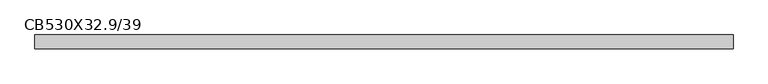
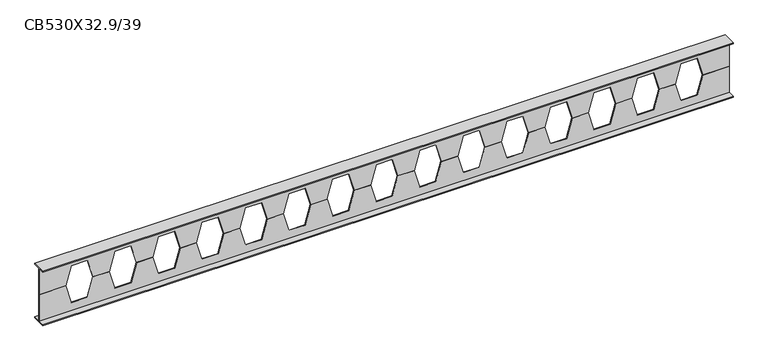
"""IFC4 building model written with IfcOpenShell, lengths in millimetres: beam geometry, Poutre alvéolaire : CB530X32.9/39."""

from ifc_helpers import new_model, si_unit, origin, place, context, project, spatial, faceted_brep, source, transform, mapped, element, save


def cb530x32_9_39_a7f7f1eb(model_context):
    return source(origin(), model_context, "Body", "Brep", [
        faceted_brep([(3182.5, 64.0, -255.8), (3182.5, 3.25, -255.8), (3182.5, 3.25, 0.0), (3182.5, -3.25, 0.0), (3182.5, -3.25, -255.8), (3182.5, -64.0, -255.8), (3182.5, -64.0, -266.5), (3182.5, 64.0, -266.5), (-3182.5, 3.25, -255.8), (-3182.5, 64.0, -255.8), (-3182.5, 64.0, -266.5), (-3182.5, -64.0, -266.5), (-3182.5, -64.0, -255.8), (-3182.5, -3.25, -255.8), (-3182.5, -3.25, 0.0), (-3182.5, 3.25, 0.0), (-2937.5, 3.25, 0.0), (-2886.7, 3.25, -180.0), (-2736.7, 3.25, -180.0), (-2685.9, 3.25, 0.0), (-2535.8285714, 3.25, 0.0), (-2485.0285714, 3.25, -180.0), (-2335.0285714, 3.25, -180.0), (-2284.2285714, 3.25, 0.0), (-2134.1571429, 3.25, 0.0), (-2083.3571429, 3.25, -180.0), (-1933.3571429, 3.25, -180.0), (-1882.5571429, 3.25, 0.0), (-1732.4857143, 3.25, 0.0), (-1681.6857143, 3.25, -180.0), (-1531.6857143, 3.25, -180.0), (-1480.8857143, 3.25, 0.0), (-1330.8142857, 3.25, 0.0), (-1280.0142857, 3.25, -180.0), (-1130.0142857, 3.25, -180.0), (-1079.2142857, 3.25, 0.0), (-929.1428571, 3.25, 0.0), (-878.3428571, 3.25, -180.0), (-728.3428571, 3.25, -180.0), (-677.5428571, 3.25, 0.0), (-527.4714286, 3.25, 0.0), (-476.6714286, 3.25, -180.0), (-326.6714286, 3.25, -180.0), (-275.8714286, 3.25, 0.0), (-125.8, 3.25, 0.0), (-75.0, 3.25, -180.0), (75.0, 3.25, -180.0), (125.8, 3.25, 0.0), (275.8714286, 3.25, 0.0), (326.6714286, 3.25, -180.0), (476.6714286, 3.25, -180.0), (527.4714286, 3.25, 0.0), (677.5428571, 3.25, 0.0), (728.3428571, 3.25, -180.0), (878.3428571, 3.25, -180.0), (929.1428571, 3.25, 0.0), (1079.2142857, 3.25, 0.0), (1130.0142857, 3.25, -180.0), (1280.0142857, 3.25, -180.0), (1330.8142857, 3.25, 0.0), (1480.8857143, 3.25, 0.0), (1531.6857143, 3.25, -180.0), (1681.6857143, 3.25, -180.0), (1732.4857143, 3.25, 0.0), (1882.5571429, 3.25, 0.0), (1933.3571429, 3.25, -180.0), (2083.3571429, 3.25, -180.0), (2134.1571429, 3.25, 0.0), (2284.2285714, 3.25, 0.0), (2335.0285714, 3.25, -180.0), (2485.0285714, 3.25, -180.0), (2535.8285714, 3.25, 0.0), (2685.9, 3.25, 0.0), (2736.7, 3.25, -180.0), (2886.7, 3.25, -180.0), (2937.5, 3.25, 0.0), (2937.5, -3.25, 0.0), (-2937.5, -3.25, 0.0), (-2535.8285714, -3.25, 0.0), (-2685.9, -3.25, 0.0), (-2284.2285714, -3.25, 0.0), (-2134.1571429, -3.25, 0.0), (2685.9, -3.25, 0.0), (2535.8285714, -3.25, 0.0), (-1882.5571429, -3.25, 0.0), (-1732.4857143, -3.25, 0.0), (-1480.8857143, -3.25, 0.0), (-1330.8142857, -3.25, 0.0), (-1079.2142857, -3.25, 0.0), (-929.1428571, -3.25, 0.0), (-677.5428571, -3.25, 0.0), (-527.4714286, -3.25, 0.0), (-275.8714286, -3.25, 0.0), (-125.8, -3.25, 0.0), (125.8, -3.25, 0.0), (275.8714286, -3.25, 0.0), (527.4714286, -3.25, 0.0), (677.5428571, -3.25, 0.0), (929.1428571, -3.25, 0.0), (1079.2142857, -3.25, 0.0), (1330.8142857, -3.25, 0.0), (1480.8857143, -3.25, 0.0), (1732.4857143, -3.25, 0.0), (1882.5571429, -3.25, 0.0), (2134.1571429, -3.25, 0.0), (2284.2285714, -3.25, 0.0), (2886.7, -3.25, -180.0), (2736.7, -3.25, -180.0), (2485.0285714, -3.25, -180.0), (2335.0285714, -3.25, -180.0), (2083.3571429, -3.25, -180.0), (1933.3571429, -3.25, -180.0), (1681.6857143, -3.25, -180.0), (1531.6857143, -3.25, -180.0), (1280.0142857, -3.25, -180.0), (1130.0142857, -3.25, -180.0), (878.3428571, -3.25, -180.0), (728.3428571, -3.25, -180.0), (476.6714286, -3.25, -180.0), (326.6714286, -3.25, -180.0), (75.0, -3.25, -180.0), (-75.0, -3.25, -180.0), (-326.6714286, -3.25, -180.0), (-476.6714286, -3.25, -180.0), (-728.3428571, -3.25, -180.0), (-878.3428571, -3.25, -180.0), (-1130.0142857, -3.25, -180.0), (-1280.0142857, -3.25, -180.0), (-1531.6857143, -3.25, -180.0), (-1681.6857143, -3.25, -180.0), (-1933.3571429, -3.25, -180.0), (-2083.3571429, -3.25, -180.0), (-2335.0285714, -3.25, -180.0), (-2485.0285714, -3.25, -180.0), (-2736.7, -3.25, -180.0), (-2886.7, -3.25, -180.0)], [[[0, 1, 2, 3, 4, 5, 6, 7]], [[8, 9, 10, 11, 12, 13, 14, 15]], [[1, 0, 9, 8]], [[2, 1, 8, 15, 16, 17, 18, 19, 20, 21, 22, 23, 24, 25, 26, 27, 28, 29, 30, 31, 32, 33, 34, 35, 36, 37, 38, 39, 40, 41, 42, 43, 44, 45, 46, 47, 48, 49, 50, 51, 52, 53, 54, 55, 56, 57, 58, 59, 60, 61, 62, 63, 64, 65, 66, 67, 68, 69, 70, 71, 72, 73, 74, 75]], [[3, 2, 75, 76]], [[15, 14, 77, 16]], [[78, 20, 19, 79]], [[23, 80, 81, 24]], [[82, 72, 71, 83]], [[27, 84, 85, 28]], [[31, 86, 87, 32]], [[35, 88, 89, 36]], [[39, 90, 91, 40]], [[43, 92, 93, 44]], [[47, 94, 95, 48]], [[51, 96, 97, 52]], [[55, 98, 99, 56]], [[59, 100, 101, 60]], [[63, 102, 103, 64]], [[67, 104, 105, 68]], [[4, 3, 76, 106, 107, 82, 83, 108, 109, 105, 104, 110, 111, 103, 102, 112, 113, 101, 100, 114, 115, 99, 98, 116, 117, 97, 96, 118, 119, 95, 94, 120, 121, 93, 92, 122, 123, 91, 90, 124, 125, 89, 88, 126, 127, 87, 86, 128, 129, 85, 84, 130, 131, 81, 80, 132, 133, 78, 79, 134, 135, 77, 14, 13]], [[5, 4, 13, 12]], [[6, 5, 12, 11]], [[7, 6, 11, 10]], [[0, 7, 10, 9]], [[133, 21, 20, 78]], [[21, 133, 132, 22]], [[22, 132, 80, 23]], [[107, 73, 72, 82]], [[73, 107, 106, 74]], [[74, 106, 76, 75]], [[135, 17, 16, 77]], [[17, 135, 134, 18]], [[18, 134, 79, 19]], [[131, 25, 24, 81]], [[25, 131, 130, 26]], [[26, 130, 84, 27]], [[129, 29, 28, 85]], [[29, 129, 128, 30]], [[30, 128, 86, 31]], [[127, 33, 32, 87]], [[33, 127, 126, 34]], [[34, 126, 88, 35]], [[125, 37, 36, 89]], [[37, 125, 124, 38]], [[38, 124, 90, 39]], [[123, 41, 40, 91]], [[41, 123, 122, 42]], [[42, 122, 92, 43]], [[121, 45, 44, 93]], [[45, 121, 120, 46]], [[46, 120, 94, 47]], [[119, 49, 48, 95]], [[49, 119, 118, 50]], [[50, 118, 96, 51]], [[117, 53, 52, 97]], [[53, 117, 116, 54]], [[54, 116, 98, 55]], [[115, 57, 56, 99]], [[57, 115, 114, 58]], [[58, 114, 100, 59]], [[113, 61, 60, 101]], [[61, 113, 112, 62]], [[62, 112, 102, 63]], [[111, 65, 64, 103]], [[65, 111, 110, 66]], [[66, 110, 104, 67]], [[109, 69, 68, 105]], [[69, 109, 108, 70]], [[70, 108, 83, 71]]]),
        faceted_brep([(3182.5, 2.9, 0.0), (3182.5, 2.9, 256.0), (3182.5, 63.5, 256.0), (3182.5, 63.5, 264.5), (3182.5, -63.5, 264.5), (3182.5, -63.5, 256.0), (3182.5, -2.9, 256.0), (3182.5, -2.9, 0.0), (-3182.5, 2.9, 256.0), (-3182.5, 2.9, 0.0), (-3182.5, -2.9, 0.0), (-3182.5, -2.9, 256.0), (-3182.5, -63.5, 256.0), (-3182.5, -63.5, 264.5), (-3182.5, 63.5, 264.5), (-3182.5, 63.5, 256.0), (2937.5, 2.9, 0.0), (2886.7, 2.9, 180.0), (2736.7, 2.9, 180.0), (2685.9, 2.9, 0.0), (2535.8285714, 2.9, 0.0), (2485.0285714, 2.9, 180.0), (2335.0285714, 2.9, 180.0), (2284.2285714, 2.9, 0.0), (2134.1571429, 2.9, 0.0), (2083.3571429, 2.9, 180.0), (1933.3571429, 2.9, 180.0), (1882.5571429, 2.9, 0.0), (1732.4857143, 2.9, 0.0), (1681.6857143, 2.9, 180.0), (1531.6857143, 2.9, 180.0), (1480.8857143, 2.9, 0.0), (1330.8142857, 2.9, 0.0), (1280.0142857, 2.9, 180.0), (1130.0142857, 2.9, 180.0), (1079.2142857, 2.9, 0.0), (929.1428571, 2.9, 0.0), (878.3428571, 2.9, 180.0), (728.3428571, 2.9, 180.0), (677.5428571, 2.9, 0.0), (527.4714286, 2.9, 0.0), (476.6714286, 2.9, 180.0), (326.6714286, 2.9, 180.0), (275.8714286, 2.9, 0.0), (125.8, 2.9, 0.0), (75.0, 2.9, 180.0), (-75.0, 2.9, 180.0), (-125.8, 2.9, 0.0), (-275.8714286, 2.9, 0.0), (-326.6714286, 2.9, 180.0), (-476.6714286, 2.9, 180.0), (-527.4714286, 2.9, 0.0), (-677.5428571, 2.9, 0.0), (-728.3428571, 2.9, 180.0), (-878.3428571, 2.9, 180.0), (-929.1428571, 2.9, 0.0), (-1079.2142857, 2.9, 0.0), (-1130.0142857, 2.9, 180.0), (-1280.0142857, 2.9, 180.0), (-1330.8142857, 2.9, 0.0), (-1480.8857143, 2.9, 0.0), (-1531.6857143, 2.9, 180.0), (-1681.6857143, 2.9, 180.0), (-1732.4857143, 2.9, 0.0), (-1882.5571429, 2.9, 0.0), (-1933.3571429, 2.9, 180.0), (-2083.3571429, 2.9, 180.0), (-2134.1571429, 2.9, 0.0), (-2284.2285714, 2.9, 0.0), (-2335.0285714, 2.9, 180.0), (-2485.0285714, 2.9, 180.0), (-2535.8285714, 2.9, 0.0), (-2685.9, 2.9, 0.0), (-2736.7, 2.9, 180.0), (-2886.7, 2.9, 180.0), (-2937.5, 2.9, 0.0), (-2937.5, -2.9, 0.0), (-2886.7, -2.9, 180.0), (-2736.7, -2.9, 180.0), (-2685.9, -2.9, 0.0), (-2535.8285714, -2.9, 0.0), (-2485.0285714, -2.9, 180.0), (-2335.0285714, -2.9, 180.0), (-2284.2285714, -2.9, 0.0), (-2134.1571429, -2.9, 0.0), (-2083.3571429, -2.9, 180.0), (-1933.3571429, -2.9, 180.0), (-1882.5571429, -2.9, 0.0), (-1732.4857143, -2.9, 0.0), (-1681.6857143, -2.9, 180.0), (-1531.6857143, -2.9, 180.0), (-1480.8857143, -2.9, 0.0), (-1330.8142857, -2.9, 0.0), (-1280.0142857, -2.9, 180.0), (-1130.0142857, -2.9, 180.0), (-1079.2142857, -2.9, 0.0), (-929.1428571, -2.9, 0.0), (-878.3428571, -2.9, 180.0), (-728.3428571, -2.9, 180.0), (-677.5428571, -2.9, 0.0), (-527.4714286, -2.9, 0.0), (-476.6714286, -2.9, 180.0), (-326.6714286, -2.9, 180.0), (-275.8714286, -2.9, 0.0), (-125.8, -2.9, 0.0), (-75.0, -2.9, 180.0), (75.0, -2.9, 180.0), (125.8, -2.9, 0.0), (275.8714286, -2.9, 0.0), (326.6714286, -2.9, 180.0), (476.6714286, -2.9, 180.0), (527.4714286, -2.9, 0.0), (677.5428571, -2.9, 0.0), (728.3428571, -2.9, 180.0), (878.3428571, -2.9, 180.0), (929.1428571, -2.9, 0.0), (1079.2142857, -2.9, 0.0), (1130.0142857, -2.9, 180.0), (1280.0142857, -2.9, 180.0), (1330.8142857, -2.9, 0.0), (1480.8857143, -2.9, 0.0), (1531.6857143, -2.9, 180.0), (1681.6857143, -2.9, 180.0), (1732.4857143, -2.9, 0.0), (1882.5571429, -2.9, 0.0), (1933.3571429, -2.9, 180.0), (2083.3571429, -2.9, 180.0), (2134.1571429, -2.9, 0.0), (2284.2285714, -2.9, 0.0), (2335.0285714, -2.9, 180.0), (2485.0285714, -2.9, 180.0), (2535.8285714, -2.9, 0.0), (2685.9, -2.9, 0.0), (2736.7, -2.9, 180.0), (2886.7, -2.9, 180.0), (2937.5, -2.9, 0.0)], [[[0, 1, 2, 3, 4, 5, 6, 7]], [[8, 9, 10, 11, 12, 13, 14, 15]], [[1, 0, 16, 17, 18, 19, 20, 21, 22, 23, 24, 25, 26, 27, 28, 29, 30, 31, 32, 33, 34, 35, 36, 37, 38, 39, 40, 41, 42, 43, 44, 45, 46, 47, 48, 49, 50, 51, 52, 53, 54, 55, 56, 57, 58, 59, 60, 61, 62, 63, 64, 65, 66, 67, 68, 69, 70, 71, 72, 73, 74, 75, 9, 8]], [[2, 1, 8, 15]], [[3, 2, 15, 14]], [[4, 3, 14, 13]], [[5, 4, 13, 12]], [[6, 5, 12, 11]], [[7, 6, 11, 10, 76, 77, 78, 79, 80, 81, 82, 83, 84, 85, 86, 87, 88, 89, 90, 91, 92, 93, 94, 95, 96, 97, 98, 99, 100, 101, 102, 103, 104, 105, 106, 107, 108, 109, 110, 111, 112, 113, 114, 115, 116, 117, 118, 119, 120, 121, 122, 123, 124, 125, 126, 127, 128, 129, 130, 131, 132, 133, 134, 135]], [[0, 7, 135, 16]], [[10, 9, 75, 76]], [[71, 80, 79, 72]], [[83, 68, 67, 84]], [[19, 132, 131, 20]], [[87, 64, 63, 88]], [[91, 60, 59, 92]], [[95, 56, 55, 96]], [[99, 52, 51, 100]], [[103, 48, 47, 104]], [[107, 44, 43, 108]], [[111, 40, 39, 112]], [[115, 36, 35, 116]], [[119, 32, 31, 120]], [[123, 28, 27, 124]], [[127, 24, 23, 128]], [[70, 81, 80, 71]], [[81, 70, 69, 82]], [[82, 69, 68, 83]], [[18, 133, 132, 19]], [[133, 18, 17, 134]], [[134, 17, 16, 135]], [[74, 77, 76, 75]], [[77, 74, 73, 78]], [[78, 73, 72, 79]], [[66, 85, 84, 67]], [[85, 66, 65, 86]], [[86, 65, 64, 87]], [[62, 89, 88, 63]], [[89, 62, 61, 90]], [[90, 61, 60, 91]], [[58, 93, 92, 59]], [[93, 58, 57, 94]], [[94, 57, 56, 95]], [[54, 97, 96, 55]], [[97, 54, 53, 98]], [[98, 53, 52, 99]], [[50, 101, 100, 51]], [[101, 50, 49, 102]], [[102, 49, 48, 103]], [[46, 105, 104, 47]], [[105, 46, 45, 106]], [[106, 45, 44, 107]], [[42, 109, 108, 43]], [[109, 42, 41, 110]], [[110, 41, 40, 111]], [[38, 113, 112, 39]], [[113, 38, 37, 114]], [[114, 37, 36, 115]], [[34, 117, 116, 35]], [[117, 34, 33, 118]], [[118, 33, 32, 119]], [[30, 121, 120, 31]], [[121, 30, 29, 122]], [[122, 29, 28, 123]], [[26, 125, 124, 27]], [[125, 26, 25, 126]], [[126, 25, 24, 127]], [[22, 129, 128, 23]], [[129, 22, 21, 130]], [[130, 21, 20, 131]]]),
    ])


if __name__ == "__main__":
    model = new_model("IFC4")
    model_context = context("Model", 3, world=origin())
    ifc_project = project(units=[si_unit("LENGTHUNIT", "METRE", prefix="MILLI")], contexts=[model_context])
    site = spatial("IfcSite", under=ifc_project)
    building = spatial("IfcBuilding", under=site)
    placement = place(None, origin())
    cb530x32_9_39_shape = cb530x32_9_39_a7f7f1eb(model_context)
    element("IfcBeam", 1, ObjectType="Poutre alvéolaire : CB530X32.9/39", at=placement, inside=building, context=model_context, shape_type="MappedRepresentation", body=[
        mapped(cb530x32_9_39_shape, transform((0.0, 0.0, 0.0), x_axis=(1.0, 0.0, 0.0), y_axis=(0.0, 1.0, 0.0), z_axis=(0.0, 0.0, 1.0))),
    ])
    save(model, "model.ifc")
